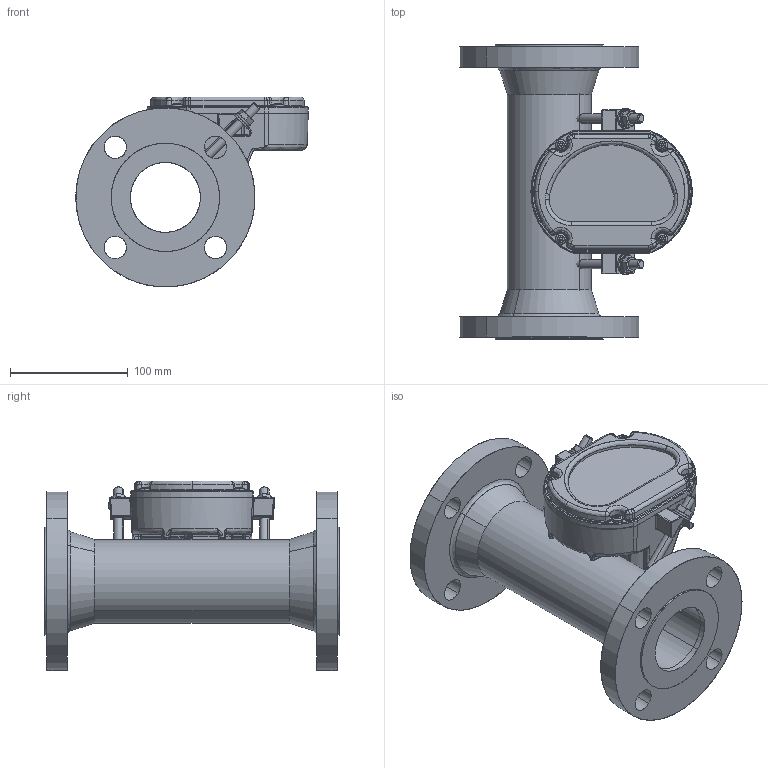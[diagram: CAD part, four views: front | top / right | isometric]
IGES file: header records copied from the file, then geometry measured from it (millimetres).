
Start section: SolidWorks IGES file using analytic representation for surfaces
Global section: file name: C:\Users\jodonnell\OneDrive - Illinois Tool Works, Inc\Desktop\3809G-A-13-F-1-A-0.IGS; native system: SolidWorks 2023; preprocessor: SolidWorks 2023; author: JODonnell; date: 250731.110719; units: inch
Bounding box: 197.68 x 250 x 161.54 mm (x, y, z)
Surface area: 320099.2 mm2 (no closed solid volume)
Topology: 0 solids, 0 shells, 1272 faces, 19213 edges, 19171 vertices
Faces by surface type: revolution 696, bspline 576
